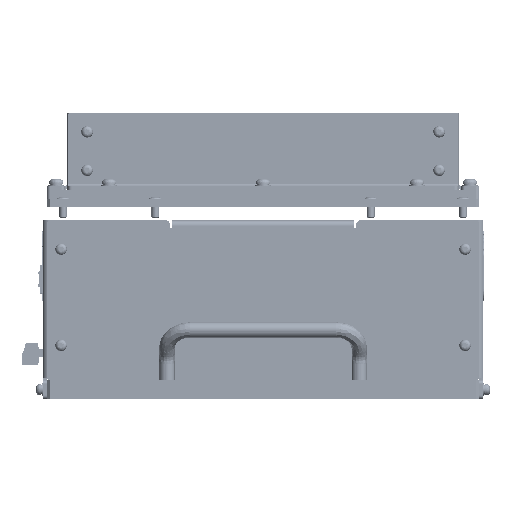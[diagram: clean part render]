
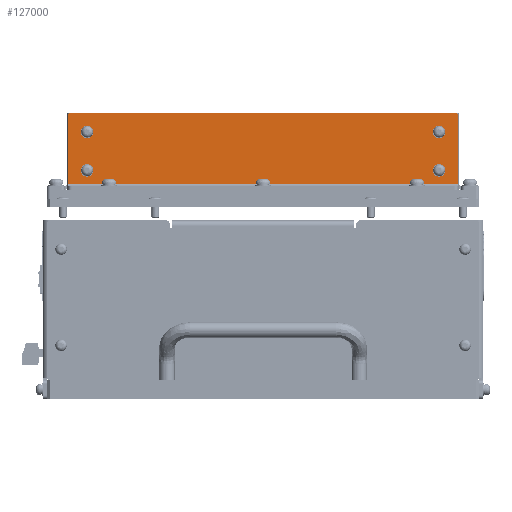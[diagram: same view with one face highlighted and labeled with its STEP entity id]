
A CAD part, left-side view. The second image highlights one B-rep face of the part: STEP entity #127000.
In plain terms, the highlighted planar face has unit normal (-1, 0, 0).
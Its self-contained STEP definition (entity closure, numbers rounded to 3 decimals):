
#3876 = ORIENTED_EDGE ( 'NONE', *, *, #128337, .F. ) ;
#5690 = DIRECTION ( 'NONE',  ( 0., -1., 0. ) ) ;
#10135 = CARTESIAN_POINT ( 'NONE',  ( -132., 101.5, 107. ) ) ;
#13293 = ORIENTED_EDGE ( 'NONE', *, *, #90391, .T. ) ;
#14242 = EDGE_CURVE ( 'NONE', #120529, #187382, #79274, .T. ) ;
#16721 = EDGE_CURVE ( 'NONE', #203691, #43094, #167094, .T. ) ;
#18819 = CARTESIAN_POINT ( 'NONE',  ( -132., -101.5, 107. ) ) ;
#20726 = CARTESIAN_POINT ( 'NONE',  ( -132., -91.5, 134. ) ) ;
#21944 = CARTESIAN_POINT ( 'NONE',  ( -132., -89.8, 134. ) ) ;
#22384 = FACE_OUTER_BOUND ( 'NONE', #63726, .T. ) ;
#22546 = AXIS2_PLACEMENT_3D ( 'NONE', #181843, #80087, #198880 ) ;
#22951 = CARTESIAN_POINT ( 'NONE',  ( -132., -89.8, 114. ) ) ;
#23965 = LINE ( 'NONE', #191623, #204987 ) ;
#24046 = DIRECTION ( 'NONE',  ( -1., 0., 0. ) ) ;
#24210 = AXIS2_PLACEMENT_3D ( 'NONE', #126151, #24046, #143220 ) ;
#24226 = EDGE_CURVE ( 'NONE', #86778, #34279, #95623, .T. ) ;
#26809 = CARTESIAN_POINT ( 'NONE',  ( -132., 91.5, 134. ) ) ;
#30401 = AXIS2_PLACEMENT_3D ( 'NONE', #72783, #191698, #89989 ) ;
#31759 = VERTEX_POINT ( 'NONE', #18819 ) ;
#33775 = VECTOR ( 'NONE', #191383, 1000. ) ;
#34279 = VERTEX_POINT ( 'NONE', #146929 ) ;
#36171 = CIRCLE ( 'NONE', #207774, 1.7 ) ;
#36640 = CIRCLE ( 'NONE', #22546, 2. ) ;
#37894 = DIRECTION ( 'NONE',  ( 0., -1., 0. ) ) ;
#38167 = CARTESIAN_POINT ( 'NONE',  ( -132., 89.8, 134. ) ) ;
#39836 = CARTESIAN_POINT ( 'NONE',  ( -132., 93.2, 114. ) ) ;
#41065 = VERTEX_POINT ( 'NONE', #38167 ) ;
#42874 = AXIS2_PLACEMENT_3D ( 'NONE', #135470, #169699, #67811 ) ;
#43094 = VERTEX_POINT ( 'NONE', #22951 ) ;
#43996 = DIRECTION ( 'NONE',  ( 0., -1., 0. ) ) ;
#45950 = CARTESIAN_POINT ( 'NONE',  ( -132., 89.8, 114. ) ) ;
#46131 = CIRCLE ( 'NONE', #58554, 1.7 ) ;
#49780 = CIRCLE ( 'NONE', #30401, 1.7 ) ;
#50189 = VECTOR ( 'NONE', #83965, 1000. ) ;
#56070 = ORIENTED_EDGE ( 'NONE', *, *, #75384, .T. ) ;
#58554 = AXIS2_PLACEMENT_3D ( 'NONE', #26809, #145975, #43996 ) ;
#58747 = EDGE_LOOP ( 'NONE', ( #99393, #215553 ) ) ;
#63726 = EDGE_LOOP ( 'NONE', ( #204747, #216980, #132311, #192130, #56070, #13293 ) ) ;
#66000 = ORIENTED_EDGE ( 'NONE', *, *, #176221, .F. ) ;
#67811 = DIRECTION ( 'NONE',  ( 0., 1., 0. ) ) ;
#67835 = FACE_BOUND ( 'NONE', #71817, .T. ) ;
#69788 = EDGE_LOOP ( 'NONE', ( #100239, #103126 ) ) ;
#71817 = EDGE_LOOP ( 'NONE', ( #207302, #3876 ) ) ;
#71959 = CIRCLE ( 'NONE', #79567, 1.7 ) ;
#71968 = CARTESIAN_POINT ( 'NONE',  ( -132., 93.2, 134. ) ) ;
#72783 = CARTESIAN_POINT ( 'NONE',  ( -132., 91.5, 134. ) ) ;
#73530 = DIRECTION ( 'NONE',  ( -1., 0., 0. ) ) ;
#75384 = EDGE_CURVE ( 'NONE', #31759, #126442, #23965, .T. ) ;
#75664 = EDGE_CURVE ( 'NONE', #149178, #167719, #71959, .T. ) ;
#78317 = EDGE_CURVE ( 'NONE', #34279, #120529, #36640, .T. ) ;
#79274 = LINE ( 'NONE', #191647, #33775 ) ;
#79567 = AXIS2_PLACEMENT_3D ( 'NONE', #200408, #98753, #217513 ) ;
#80087 = DIRECTION ( 'NONE',  ( -1., 0., 0. ) ) ;
#83965 = DIRECTION ( 'NONE',  ( 0., 1., 0. ) ) ;
#86139 = CARTESIAN_POINT ( 'NONE',  ( -132., 101.5, 144. ) ) ;
#86778 = VERTEX_POINT ( 'NONE', #145193 ) ;
#88090 = CARTESIAN_POINT ( 'NONE',  ( -132., -93.2, 114. ) ) ;
#89069 = LINE ( 'NONE', #184198, #134255 ) ;
#89908 = DIRECTION ( 'NONE',  ( 0., 0., 1. ) ) ;
#89989 = DIRECTION ( 'NONE',  ( 0., -1., 0. ) ) ;
#90391 = EDGE_CURVE ( 'NONE', #126442, #86778, #129966, .T. ) ;
#94472 = CARTESIAN_POINT ( 'NONE',  ( -132., 101.5, 142. ) ) ;
#95623 = LINE ( 'NONE', #86139, #50189 ) ;
#98753 = DIRECTION ( 'NONE',  ( -1., 0., 0. ) ) ;
#99393 = ORIENTED_EDGE ( 'NONE', *, *, #219580, .F. ) ;
#99852 = DIRECTION ( 'NONE',  ( -1., 0., 0. ) ) ;
#100239 = ORIENTED_EDGE ( 'NONE', *, *, #120375, .F. ) ;
#102834 = AXIS2_PLACEMENT_3D ( 'NONE', #175369, #73530, #192450 ) ;
#103126 = ORIENTED_EDGE ( 'NONE', *, *, #128067, .F. ) ;
#107327 = VERTEX_POINT ( 'NONE', #45950 ) ;
#107846 = DIRECTION ( 'NONE',  ( -1., 0., 0. ) ) ;
#110950 = CARTESIAN_POINT ( 'NONE',  ( -132., -93.2, 134. ) ) ;
#118435 = FACE_BOUND ( 'NONE', #69788, .T. ) ;
#118752 = DIRECTION ( 'NONE',  ( 0., 1., 0. ) ) ;
#120375 = EDGE_CURVE ( 'NONE', #107327, #216969, #165753, .T. ) ;
#120529 = VERTEX_POINT ( 'NONE', #94472 ) ;
#126151 = CARTESIAN_POINT ( 'NONE',  ( -132., -99.5, 142. ) ) ;
#126442 = VERTEX_POINT ( 'NONE', #187004 ) ;
#127000 = ADVANCED_FACE ( 'NONE', ( #163693, #118435, #158311, #67835, #22384 ), #152625, .F. ) ;
#128067 = EDGE_CURVE ( 'NONE', #216969, #107327, #163421, .T. ) ;
#128337 = EDGE_CURVE ( 'NONE', #43094, #203691, #165973, .T. ) ;
#129966 = CIRCLE ( 'NONE', #24210, 2. ) ;
#132311 = ORIENTED_EDGE ( 'NONE', *, *, #14242, .T. ) ;
#134255 = VECTOR ( 'NONE', #118752, 1000. ) ;
#135470 = CARTESIAN_POINT ( 'NONE',  ( -132., 0., 124. ) ) ;
#136007 = AXIS2_PLACEMENT_3D ( 'NONE', #142068, #141591, #141558 ) ;
#138290 = ORIENTED_EDGE ( 'NONE', *, *, #75664, .F. ) ;
#139904 = DIRECTION ( 'NONE',  ( -1., 0., 0. ) ) ;
#141558 = DIRECTION ( 'NONE',  ( 0., -1., 0. ) ) ;
#141591 = DIRECTION ( 'NONE',  ( -1., 0., 0. ) ) ;
#142068 = CARTESIAN_POINT ( 'NONE',  ( -132., -91.5, 114. ) ) ;
#143220 = DIRECTION ( 'NONE',  ( 0., 1., 0. ) ) ;
#144248 = AXIS2_PLACEMENT_3D ( 'NONE', #201519, #99852, #218579 ) ;
#145193 = CARTESIAN_POINT ( 'NONE',  ( -132., -99.5, 144. ) ) ;
#145975 = DIRECTION ( 'NONE',  ( -1., 0., 0. ) ) ;
#146929 = CARTESIAN_POINT ( 'NONE',  ( -132., 99.5, 144. ) ) ;
#149166 = VERTEX_POINT ( 'NONE', #71968 ) ;
#149178 = VERTEX_POINT ( 'NONE', #21944 ) ;
#152326 = EDGE_CURVE ( 'NONE', #149166, #41065, #49780, .T. ) ;
#152625 = PLANE ( 'NONE',  #42874 ) ;
#158311 = FACE_BOUND ( 'NONE', #210085, .T. ) ;
#160083 = EDGE_CURVE ( 'NONE', #31759, #187382, #89069, .T. ) ;
#162867 = AXIS2_PLACEMENT_3D ( 'NONE', #209516, #107846, #5690 ) ;
#163421 = CIRCLE ( 'NONE', #144248, 1.7 ) ;
#163693 = FACE_BOUND ( 'NONE', #58747, .T. ) ;
#165753 = CIRCLE ( 'NONE', #102834, 1.7 ) ;
#165973 = CIRCLE ( 'NONE', #162867, 1.7 ) ;
#167094 = CIRCLE ( 'NONE', #136007, 1.7 ) ;
#167719 = VERTEX_POINT ( 'NONE', #110950 ) ;
#169699 = DIRECTION ( 'NONE',  ( 1., 0., 0. ) ) ;
#175369 = CARTESIAN_POINT ( 'NONE',  ( -132., 91.5, 114. ) ) ;
#176221 = EDGE_CURVE ( 'NONE', #167719, #149178, #36171, .T. ) ;
#181843 = CARTESIAN_POINT ( 'NONE',  ( -132., 99.5, 142. ) ) ;
#184198 = CARTESIAN_POINT ( 'NONE',  ( -132., -101.5, 107. ) ) ;
#187004 = CARTESIAN_POINT ( 'NONE',  ( -132., -101.5, 142. ) ) ;
#187382 = VERTEX_POINT ( 'NONE', #10135 ) ;
#191383 = DIRECTION ( 'NONE',  ( 0., 0., -1. ) ) ;
#191623 = CARTESIAN_POINT ( 'NONE',  ( -132., -101.5, 104. ) ) ;
#191647 = CARTESIAN_POINT ( 'NONE',  ( -132., 101.5, 104. ) ) ;
#191698 = DIRECTION ( 'NONE',  ( -1., 0., 0. ) ) ;
#192130 = ORIENTED_EDGE ( 'NONE', *, *, #160083, .F. ) ;
#192450 = DIRECTION ( 'NONE',  ( 0., -1., 0. ) ) ;
#198880 = DIRECTION ( 'NONE',  ( 0., 1., 0. ) ) ;
#200408 = CARTESIAN_POINT ( 'NONE',  ( -132., -91.5, 134. ) ) ;
#201519 = CARTESIAN_POINT ( 'NONE',  ( -132., 91.5, 114. ) ) ;
#203691 = VERTEX_POINT ( 'NONE', #88090 ) ;
#204747 = ORIENTED_EDGE ( 'NONE', *, *, #24226, .T. ) ;
#204987 = VECTOR ( 'NONE', #89908, 1000. ) ;
#207302 = ORIENTED_EDGE ( 'NONE', *, *, #16721, .F. ) ;
#207774 = AXIS2_PLACEMENT_3D ( 'NONE', #20726, #139904, #37894 ) ;
#209516 = CARTESIAN_POINT ( 'NONE',  ( -132., -91.5, 114. ) ) ;
#210085 = EDGE_LOOP ( 'NONE', ( #66000, #138290 ) ) ;
#215553 = ORIENTED_EDGE ( 'NONE', *, *, #152326, .F. ) ;
#216969 = VERTEX_POINT ( 'NONE', #39836 ) ;
#216980 = ORIENTED_EDGE ( 'NONE', *, *, #78317, .T. ) ;
#217513 = DIRECTION ( 'NONE',  ( 0., -1., 0. ) ) ;
#218579 = DIRECTION ( 'NONE',  ( 0., -1., 0. ) ) ;
#219580 = EDGE_CURVE ( 'NONE', #41065, #149166, #46131, .T. ) ;
